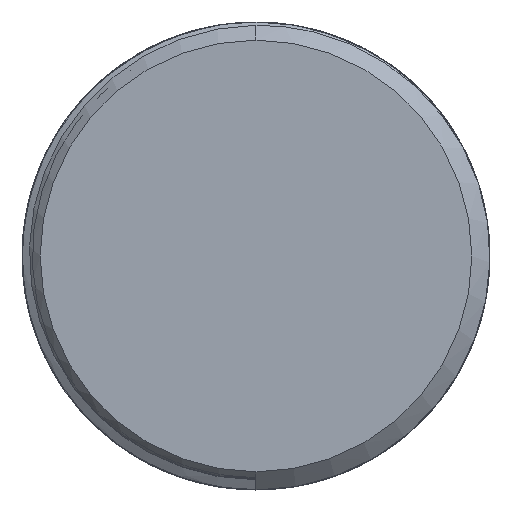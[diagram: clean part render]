
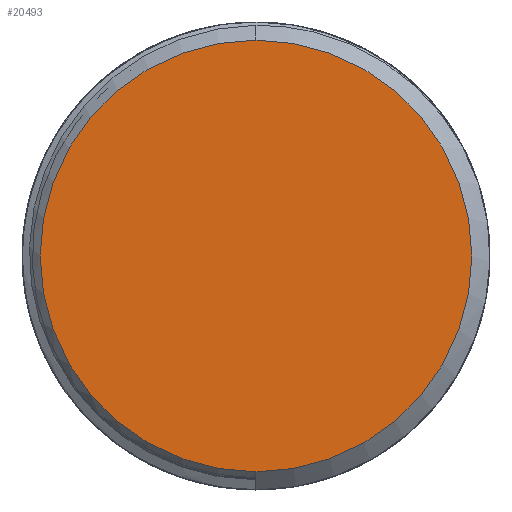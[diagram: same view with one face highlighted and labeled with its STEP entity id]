
A CAD part, left-side view. The second image highlights one B-rep face of the part: STEP entity #20493.
In plain terms, the highlighted planar face has unit normal (-1, 0, 0).
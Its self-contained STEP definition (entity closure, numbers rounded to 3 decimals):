
#9151=CARTESIAN_POINT('',(0.,0.,0.));
#9152=DIRECTION('',(-1.,0.,0.));
#9153=DIRECTION('',(0.,0.,-1.));
#9154=AXIS2_PLACEMENT_3D('',#9151,#9152,#9153);
#9156=CARTESIAN_POINT('',(0.,0.,0.));
#9157=DIRECTION('',(1.,0.,0.));
#9158=DIRECTION('',(0.,0.,-1.));
#9159=AXIS2_PLACEMENT_3D('',#9156,#9157,#9158);
#9407=CARTESIAN_POINT('',(0.,0.,-8.3));
#9408=CARTESIAN_POINT('',(0.,0.,8.3));
#9409=VERTEX_POINT('',#9407);
#9410=VERTEX_POINT('',#9408);
#20484=CARTESIAN_POINT('',(0.,0.,0.));
#20485=DIRECTION('',(1.,0.,0.));
#20486=DIRECTION('',(0.,0.,1.));
#20487=AXIS2_PLACEMENT_3D('',#20484,#20485,#20486);
#20488=PLANE('',#20487);
#20489=ORIENTED_EDGE('',*,*,#13296,.F.);
#20490=ORIENTED_EDGE('',*,*,#13280,.T.);
#20491=EDGE_LOOP('',(#20489,#20490));
#20492=FACE_OUTER_BOUND('',#20491,.F.);
#20493=ADVANCED_FACE('',(#20492),#20488,.F.);
#9155=CIRCLE('',#9154,8.3);
#9160=CIRCLE('',#9159,8.3);
#13280=EDGE_CURVE('',#9409,#9410,#9160,.T.);
#13296=EDGE_CURVE('',#9409,#9410,#9155,.T.);
